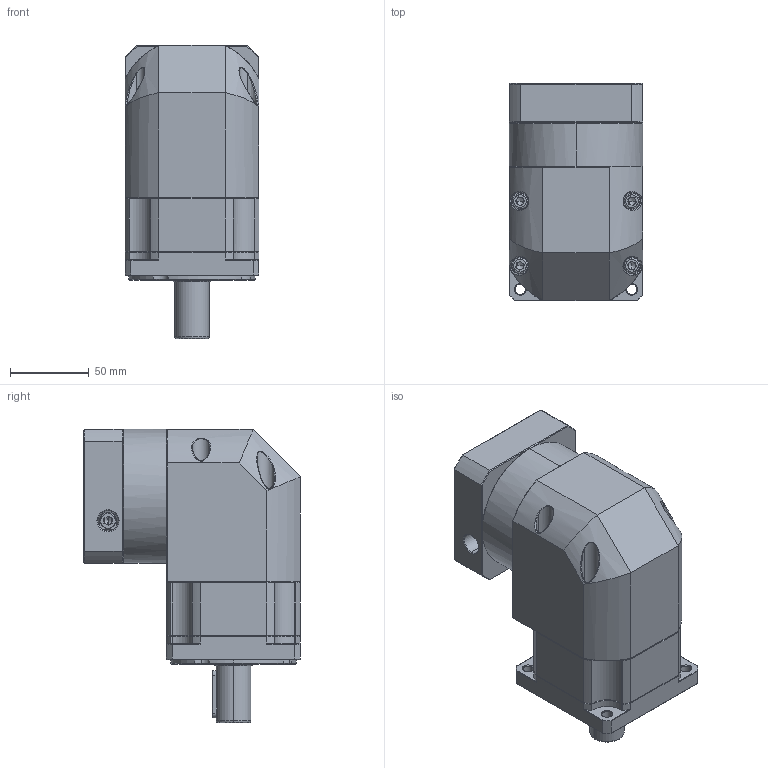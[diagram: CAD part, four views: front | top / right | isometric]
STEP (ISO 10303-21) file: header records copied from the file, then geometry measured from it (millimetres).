
FILE_DESCRIPTION (( 'STEP AP214' ), '1' );
FILE_NAME ('ZBR090-D22-L1-P2-14-60-75-M6.step', '2023-08-19T02:05:02', ( '' ), ( '' ), 'SwSTEP 2.0', 'SolidWorks 2016', '' );
FILE_SCHEMA (( 'AUTOMOTIVE_DESIGN' ));
Length unit declared in the file: millimetre
Products named in the file (1): ZBR090-D22-L1-P2-14-60-75-M6
Bounding box: 85 x 137.6 x 186 mm (x, y, z)
Volume: 1193854.9 mm3; surface area: 129447.8 mm2
Topology: 5 solids, 5 shells, 2417 faces, 6303 edges, 3977 vertices
Faces by surface type: plane 1176, cylinder 450, bspline 421, cone 344, torus 26
Entity records: 129841 total; most frequent: CARTESIAN_POINT 47638, ORIENTED_EDGE 12530, DIRECTION 9959, EDGE_CURVE 6265, VECTOR 4009, LINE 4009, VERTEX_POINT 3977, AXIS2_PLACEMENT_3D 2975
